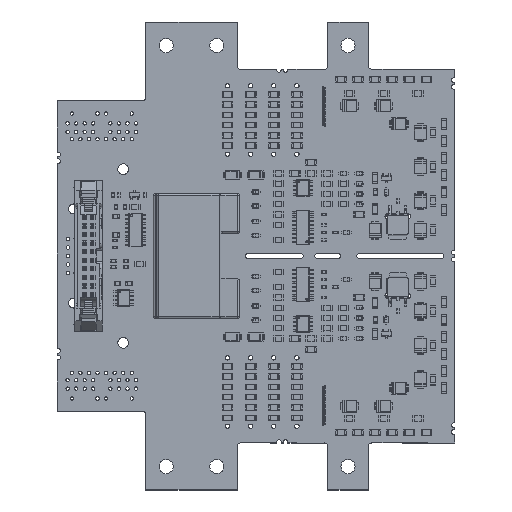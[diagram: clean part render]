
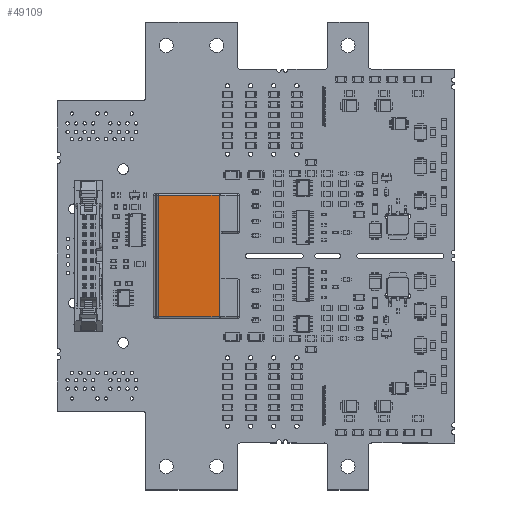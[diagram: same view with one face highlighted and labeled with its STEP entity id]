
A CAD part, top view. The second image highlights one B-rep face of the part: STEP entity #49109.
In plain terms, the highlighted planar face has unit normal (0, 0, 1) as drawn and (0, 1, 0) by its records, which use the part's own axes.
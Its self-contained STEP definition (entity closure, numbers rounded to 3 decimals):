
#10421=VERTEX_POINT('',#71388);
#10429=VERTEX_POINT('',#71417);
#10440=VERTEX_POINT('',#71456);
#10442=VERTEX_POINT('',#71465);
#14793=VECTOR('',#58528,1.);
#14795=VECTOR('',#58540,1.);
#14811=VECTOR('',#58600,1.);
#14812=VECTOR('',#58603,1.);
#20068=LINE('',#71452,#14793);
#20070=LINE('',#71462,#14795);
#20086=LINE('',#71513,#14811);
#20087=LINE('',#71515,#14812);
#25822=EDGE_CURVE('',#10421,#10429,#20068,.T.);
#25827=EDGE_CURVE('',#10440,#10421,#20070,.T.);
#25854=EDGE_CURVE('',#10429,#10442,#20086,.T.);
#25855=EDGE_CURVE('',#10442,#10440,#20087,.T.);
#34329=ORIENTED_EDGE('',*,*,#25822,.F.);
#34330=ORIENTED_EDGE('',*,*,#25827,.F.);
#34331=ORIENTED_EDGE('',*,*,#25855,.F.);
#34332=ORIENTED_EDGE('',*,*,#25854,.F.);
#43941=EDGE_LOOP('',(#34329,#34330,#34331,#34332));
#46737=FACE_BOUND('',#43941,.T.);
#49109=ADVANCED_FACE('',(#46737),#82385,.T.);
#51902=AXIS2_PLACEMENT_3D('',#71531,#58618,$);
#58528=DIRECTION('',(-1.,0.,0.));
#58540=DIRECTION('',(0.,0.,1.));
#58600=DIRECTION('',(0.,0.,-1.));
#58603=DIRECTION('',(1.,0.,0.));
#58618=DIRECTION('',(0.,1.,0.));
#71388=CARTESIAN_POINT('',(36.5,13.6,-0.5));
#71417=CARTESIAN_POINT('',(0.5,13.6,-0.5));
#71452=CARTESIAN_POINT('',(18.5,13.6,-0.5));
#71456=CARTESIAN_POINT('',(36.5,13.6,-18.507));
#71462=CARTESIAN_POINT('',(36.5,13.6,-10.));
#71465=CARTESIAN_POINT('',(0.5,13.6,-18.507));
#71513=CARTESIAN_POINT('',(0.5,13.6,-10.));
#71515=CARTESIAN_POINT('',(18.501,13.6,-18.507));
#71531=CARTESIAN_POINT('',(18.5,13.6,-10.));
#82385=PLANE('',#51902);
